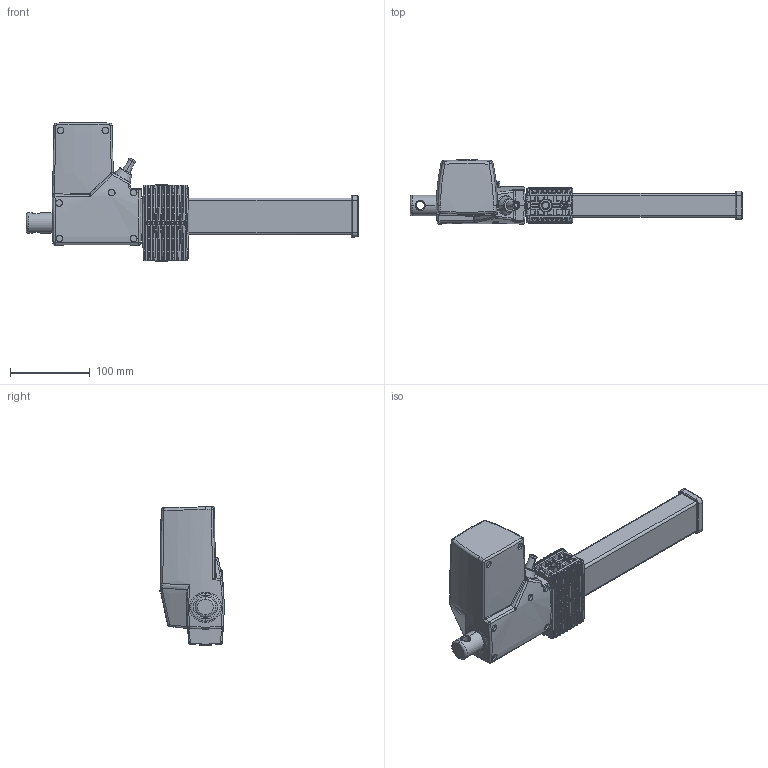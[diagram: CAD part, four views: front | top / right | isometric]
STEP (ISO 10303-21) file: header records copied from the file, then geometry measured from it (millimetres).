
FILE_DESCRIPTION((''),'2;1');
FILE_NAME('LA29','2008-02-21T',('KH'),(''),'PRO/ENGINEER BY PARAMETRIC TECHNOLOGY CORPORATION, 2007310','PRO/ENGINEER BY PARAMETRIC TECHNOLOGY CORPORATION, 2007310','');
FILE_SCHEMA(('CONFIG_CONTROL_DESIGN'));
Length unit declared in the file: millimetre
Products named in the file (1): LA29
Bounding box: 416 x 80.62 x 173.7 mm (x, y, z)
Volume: 1309749.9 mm3; surface area: 164612 mm2
Topology: 1 solids, 1 shells, 1734 faces, 4045 edges, 2332 vertices
Faces by surface type: cylinder 556, plane 350, bspline 340, torus 300, sphere 124, cone 64
Entity records: 80161 total; most frequent: CARTESIAN_POINT 30358, ORIENTED_EDGE 8090, DIRECTION 7328, PRESENTATION_STYLE_ASSIGNMENT 4106, STYLED_ITEM 4046, CURVE_STYLE 4045, EDGE_CURVE 4045, AXIS2_PLACEMENT_3D 3005
